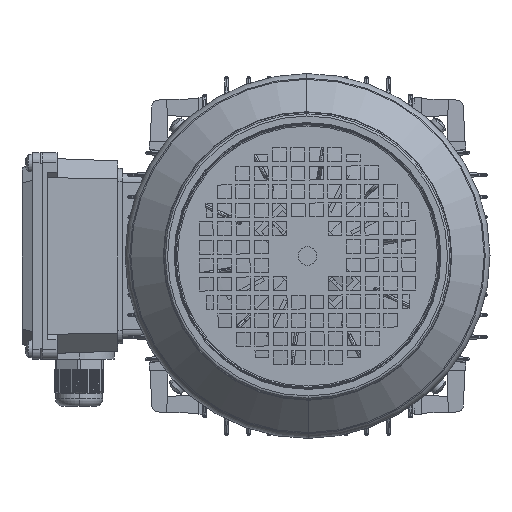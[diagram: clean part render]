
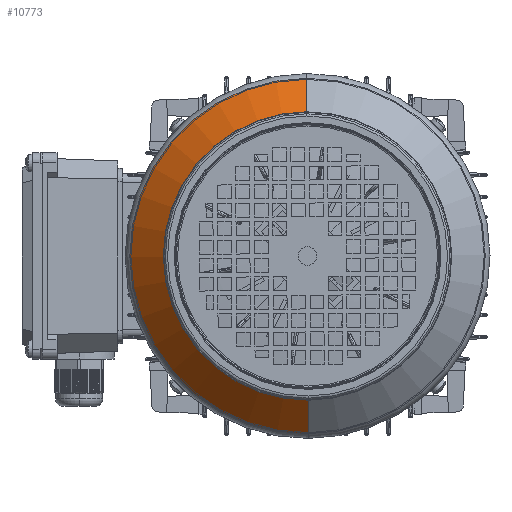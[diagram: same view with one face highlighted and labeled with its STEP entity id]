
A CAD part, left-side view. The second image highlights one B-rep face of the part: STEP entity #10773.
In plain terms, the highlighted conical face has half-angle 45 degrees and reference radius 78.293 mm.
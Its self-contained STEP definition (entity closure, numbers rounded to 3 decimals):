
#1911 = AXIS2_PLACEMENT_3D ( 'NONE', #121665, #91439, #76357 ) ;
#5074 = DIRECTION ( 'NONE',  ( 0., 0., 1. ) ) ;
#7362 = ORIENTED_EDGE ( 'NONE', *, *, #143176, .T. ) ;
#10165 = EDGE_CURVE ( 'NONE', #35750, #119149, #46149, .T. ) ;
#10773 = ADVANCED_FACE ( 'NONE', ( #118196 ), #39221, .T. ) ;
#20219 = DIRECTION ( 'NONE',  ( -1., 0., 0. ) ) ;
#35360 = CARTESIAN_POINT ( 'NONE',  ( 159.707, 0., 0. ) ) ;
#35750 = VERTEX_POINT ( 'NONE', #88850 ) ;
#39221 = CONICAL_SURFACE ( 'NONE', #129666, 78.293, 0.785 ) ;
#44622 = ORIENTED_EDGE ( 'NONE', *, *, #76594, .T. ) ;
#46149 = LINE ( 'NONE', #102952, #111345 ) ;
#47522 = CIRCLE ( 'NONE', #85598, 78.293 ) ;
#62805 = VECTOR ( 'NONE', #106497, 1000. ) ;
#68926 = ORIENTED_EDGE ( 'NONE', *, *, #143913, .F. ) ;
#73423 = CARTESIAN_POINT ( 'NONE',  ( 159.707, 0., -78.293 ) ) ;
#75789 = DIRECTION ( 'NONE',  ( 0., 0., 1. ) ) ;
#76357 = DIRECTION ( 'NONE',  ( 0., 0., 1. ) ) ;
#76594 = EDGE_CURVE ( 'NONE', #79141, #101233, #136778, .T. ) ;
#76627 = CARTESIAN_POINT ( 'NONE',  ( 141.527, 0., -96.473 ) ) ;
#79141 = VERTEX_POINT ( 'NONE', #73423 ) ;
#82765 = EDGE_LOOP ( 'NONE', ( #7362, #44622, #68926, #116606 ) ) ;
#85598 = AXIS2_PLACEMENT_3D ( 'NONE', #105951, #90874, #75789 ) ;
#87850 = DIRECTION ( 'NONE',  ( -0.707, 0., 0.707 ) ) ;
#88850 = CARTESIAN_POINT ( 'NONE',  ( 159.707, 0., 78.293 ) ) ;
#90874 = DIRECTION ( 'NONE',  ( -1., 0., 0. ) ) ;
#91439 = DIRECTION ( 'NONE',  ( -1., 0., 0. ) ) ;
#93273 = CIRCLE ( 'NONE', #1911, 96.473 ) ;
#101233 = VERTEX_POINT ( 'NONE', #76627 ) ;
#102952 = CARTESIAN_POINT ( 'NONE',  ( 159.707, 0., 78.293 ) ) ;
#105951 = CARTESIAN_POINT ( 'NONE',  ( 159.707, 0., 0. ) ) ;
#106497 = DIRECTION ( 'NONE',  ( -0.707, 0., -0.707 ) ) ;
#111345 = VECTOR ( 'NONE', #87850, 1000. ) ;
#116606 = ORIENTED_EDGE ( 'NONE', *, *, #10165, .F. ) ;
#118196 = FACE_OUTER_BOUND ( 'NONE', #82765, .T. ) ;
#119149 = VERTEX_POINT ( 'NONE', #119978 ) ;
#119978 = CARTESIAN_POINT ( 'NONE',  ( 141.527, 0., 96.473 ) ) ;
#121643 = CARTESIAN_POINT ( 'NONE',  ( 159.707, 0., -78.293 ) ) ;
#121665 = CARTESIAN_POINT ( 'NONE',  ( 141.527, 0., 0. ) ) ;
#129666 = AXIS2_PLACEMENT_3D ( 'NONE', #35360, #20219, #5074 ) ;
#136778 = LINE ( 'NONE', #121643, #62805 ) ;
#143176 = EDGE_CURVE ( 'NONE', #35750, #79141, #47522, .T. ) ;
#143913 = EDGE_CURVE ( 'NONE', #119149, #101233, #93273, .T. ) ;
